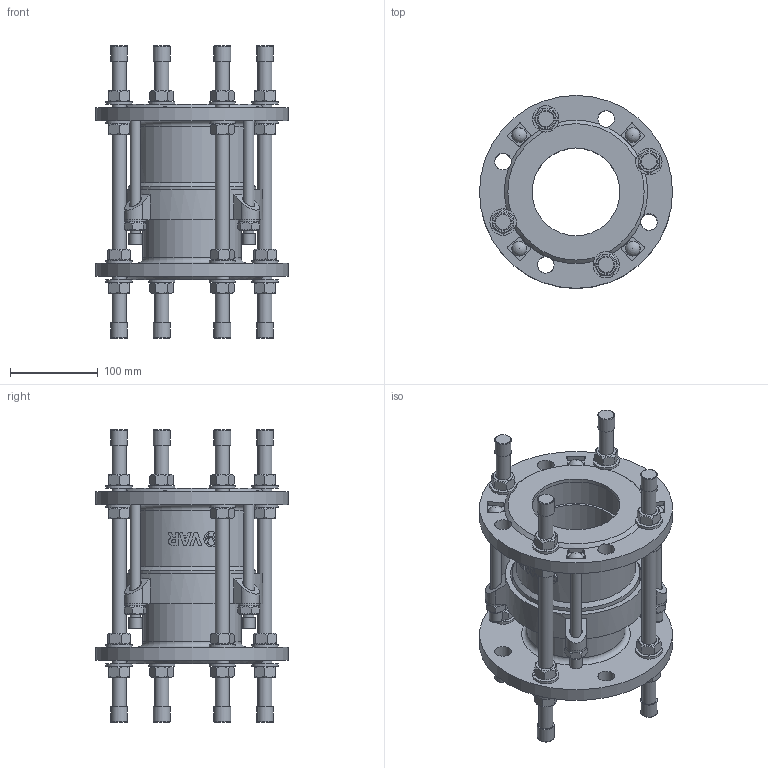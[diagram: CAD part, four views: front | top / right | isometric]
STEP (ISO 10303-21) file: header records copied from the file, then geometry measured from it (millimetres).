
FILE_DESCRIPTION(('STEP AP242'), '1');
FILE_NAME('Ìîíòàæíàÿ âñòàâêà', '', ('UNSPECIFIED'), ('UNSPECIFIED'), 'C3D Converter', 'C3D Toolkit', '');
FILE_SCHEMA(('AP242_MANAGED_MODEL_BASED_3D_ENGINEERING_MIM_LF { 1 0 10303 442 1 1 4 }'));
Length unit declared in the file: millimetre
Products named in the file (13): ШМ.М16.310
Assembly tree (64 placements, depth 2):
  (unnamed)
    (unnamed)
    (unnamed)
    (unnamed)
    (unnamed)  x16
    (unnamed)  x16
    ШМ.М16.310  x4
    (unnamed)  x8
    (unnamed)
    (unnamed)  x4
    (unnamed)  x4
    (unnamed)  x4
    (unnamed)  x4
Bounding box: 220 x 220 x 333.2 mm (x, y, z)
Volume: 2243594.6 mm3; surface area: 606490.5 mm2
Topology: 64 solids, 64 shells, 668 faces, 1466 edges, 936 vertices
Faces by surface type: plane 385, cylinder 155, cone 99, torus 14, extrusion 11, sphere 4
Full cylindrical faces by diameter (mm): 12 x12, 13 x4, 14 x4, 14.4 x4, 16 x28, 17 x16, 17.571 x1, 19 x16, 19.2 x8, 24 x4, 30 x16, 100 x2, 112 x2, 118 x2, 136 x1, 142 x1, 145 x1, 149 x1, 161 x1, 220 x2
Entity records: 15595 total; most frequent: CARTESIAN_POINT 7590, DIRECTION 1256, ORIENTED_EDGE 1092, EDGE_CURVE 546, AXIS2_PLACEMENT_3D 515, VERTEX_POINT 399, EDGE_LOOP 377, FACE_BOUND 271
